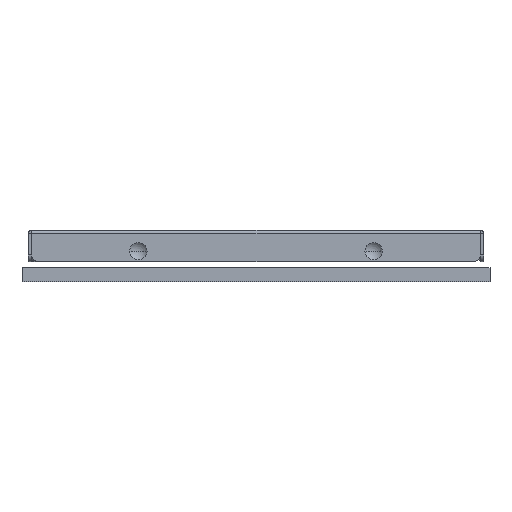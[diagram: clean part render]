
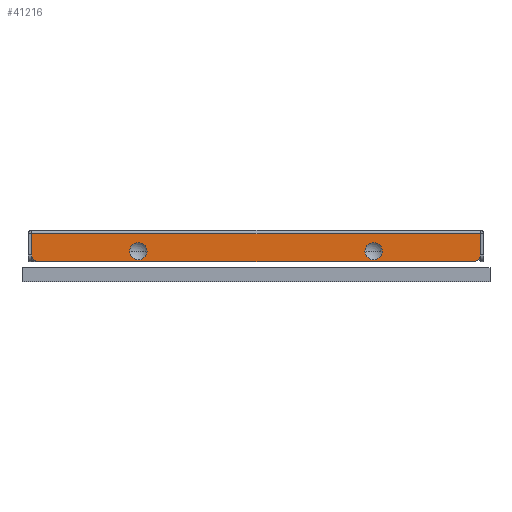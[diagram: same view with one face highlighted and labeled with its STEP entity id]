
A CAD part, front view. The second image highlights one B-rep face of the part: STEP entity #41216.
In plain terms, the highlighted planar face has unit normal (0, -1, 0) as drawn and (0, 0, 1) by its records, which use the part's own axes.
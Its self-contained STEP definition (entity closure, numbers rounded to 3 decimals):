
#25886=CARTESIAN_POINT('',(-9.23,-1.05,11.53));
#25887=DIRECTION('',(0.,0.,1.));
#25888=DIRECTION('',(-1.,0.,0.));
#25889=AXIS2_PLACEMENT_3D('',#25886,#25887,#25888);
#25894=DIRECTION('',(0.,-1.,0.));
#25895=VECTOR('',#25894,0.9);
#25896=CARTESIAN_POINT('',(-9.53,-0.15,11.53));
#25897=LINE('',#25896,#25895);
#25901=DIRECTION('',(0.,1.,0.));
#25902=VECTOR('',#25901,0.9);
#25903=CARTESIAN_POINT('',(9.53,-1.05,11.53));
#25904=LINE('',#25903,#25902);
#25908=CARTESIAN_POINT('',(9.23,-1.05,11.53));
#25909=DIRECTION('',(0.,0.,1.));
#25910=DIRECTION('',(0.,-1.,0.));
#25911=AXIS2_PLACEMENT_3D('',#25908,#25909,#25910);
#25916=DIRECTION('',(1.,0.,0.));
#25917=VECTOR('',#25916,18.46);
#25918=CARTESIAN_POINT('',(-9.23,-1.35,11.53));
#25919=LINE('',#25918,#25917);
#25923=CARTESIAN_POINT('',(-5.,-0.9,11.53));
#25924=DIRECTION('',(0.,0.,1.));
#25925=DIRECTION('',(-1.,0.,0.));
#25926=AXIS2_PLACEMENT_3D('',#25923,#25924,#25925);
#25931=CARTESIAN_POINT('',(-5.,-0.9,11.53));
#25932=DIRECTION('',(0.,0.,1.));
#25933=DIRECTION('',(1.,0.,0.));
#25934=AXIS2_PLACEMENT_3D('',#25931,#25932,#25933);
#25939=CARTESIAN_POINT('',(5.,-0.9,11.53));
#25940=DIRECTION('',(0.,0.,1.));
#25941=DIRECTION('',(-1.,0.,0.));
#25942=AXIS2_PLACEMENT_3D('',#25939,#25940,#25941);
#25947=CARTESIAN_POINT('',(5.,-0.9,11.53));
#25948=DIRECTION('',(0.,0.,1.));
#25949=DIRECTION('',(1.,0.,0.));
#25950=AXIS2_PLACEMENT_3D('',#25947,#25948,#25949);
#26094=DIRECTION('',(-1.,0.,0.));
#26095=VECTOR('',#26094,19.06);
#26096=CARTESIAN_POINT('',(9.53,-0.15,11.53));
#26097=LINE('',#26096,#26095);
#36214=CARTESIAN_POINT('',(9.53,-0.15,11.53));
#36215=CARTESIAN_POINT('',(-9.53,-0.15,11.53));
#36216=VERTEX_POINT('',#36214);
#36217=VERTEX_POINT('',#36215);
#36298=CARTESIAN_POINT('',(-9.53,-1.05,11.53));
#36299=CARTESIAN_POINT('',(-9.23,-1.35,11.53));
#36300=VERTEX_POINT('',#36298);
#36301=VERTEX_POINT('',#36299);
#36314=CARTESIAN_POINT('',(9.23,-1.35,11.53));
#36315=CARTESIAN_POINT('',(9.53,-1.05,11.53));
#36316=VERTEX_POINT('',#36314);
#36317=VERTEX_POINT('',#36315);
#36328=CARTESIAN_POINT('',(-5.368,-0.9,11.53));
#36329=CARTESIAN_POINT('',(-4.632,-0.9,11.53));
#36330=VERTEX_POINT('',#36328);
#36331=VERTEX_POINT('',#36329);
#36340=CARTESIAN_POINT('',(4.632,-0.9,11.53));
#36341=CARTESIAN_POINT('',(5.368,-0.9,11.53));
#36342=VERTEX_POINT('',#36340);
#36343=VERTEX_POINT('',#36341);
#41187=CARTESIAN_POINT('',(-9.53,0.,11.53));
#41188=DIRECTION('',(0.,0.,1.));
#41189=DIRECTION('',(-1.,0.,0.));
#41190=AXIS2_PLACEMENT_3D('',#41187,#41188,#41189);
#41191=PLANE('',#41190);
#41193=ORIENTED_EDGE('',*,*,#41192,.F.);
#41195=ORIENTED_EDGE('',*,*,#41194,.F.);
#41197=ORIENTED_EDGE('',*,*,#41196,.F.);
#41198=ORIENTED_EDGE('',*,*,#41164,.F.);
#41199=ORIENTED_EDGE('',*,*,#41177,.F.);
#41201=ORIENTED_EDGE('',*,*,#41200,.F.);
#41202=EDGE_LOOP('',(#41193,#41195,#41197,#41198,#41199,#41201));
#41203=FACE_OUTER_BOUND('',#41202,.F.);
#41205=ORIENTED_EDGE('',*,*,#41204,.T.);
#41207=ORIENTED_EDGE('',*,*,#41206,.T.);
#41208=EDGE_LOOP('',(#41205,#41207));
#41209=FACE_BOUND('',#41208,.F.);
#41211=ORIENTED_EDGE('',*,*,#41210,.T.);
#41213=ORIENTED_EDGE('',*,*,#41212,.T.);
#41214=EDGE_LOOP('',(#41211,#41213));
#41215=FACE_BOUND('',#41214,.F.);
#41216=ADVANCED_FACE('',(#41203,#41209,#41215),#41191,.T.);
#25890=CIRCLE('',#25889,0.3);
#25912=CIRCLE('',#25911,0.3);
#25927=CIRCLE('',#25926,0.368);
#25935=CIRCLE('',#25934,0.368);
#25943=CIRCLE('',#25942,0.368);
#25951=CIRCLE('',#25950,0.368);
#41164=EDGE_CURVE('',#36317,#36216,#25904,.T.);
#41177=EDGE_CURVE('',#36316,#36317,#25912,.T.);
#41192=EDGE_CURVE('',#36300,#36301,#25890,.T.);
#41194=EDGE_CURVE('',#36217,#36300,#25897,.T.);
#41196=EDGE_CURVE('',#36216,#36217,#26097,.T.);
#41200=EDGE_CURVE('',#36301,#36316,#25919,.T.);
#41204=EDGE_CURVE('',#36330,#36331,#25927,.T.);
#41206=EDGE_CURVE('',#36331,#36330,#25935,.T.);
#41210=EDGE_CURVE('',#36342,#36343,#25943,.T.);
#41212=EDGE_CURVE('',#36343,#36342,#25951,.T.);
